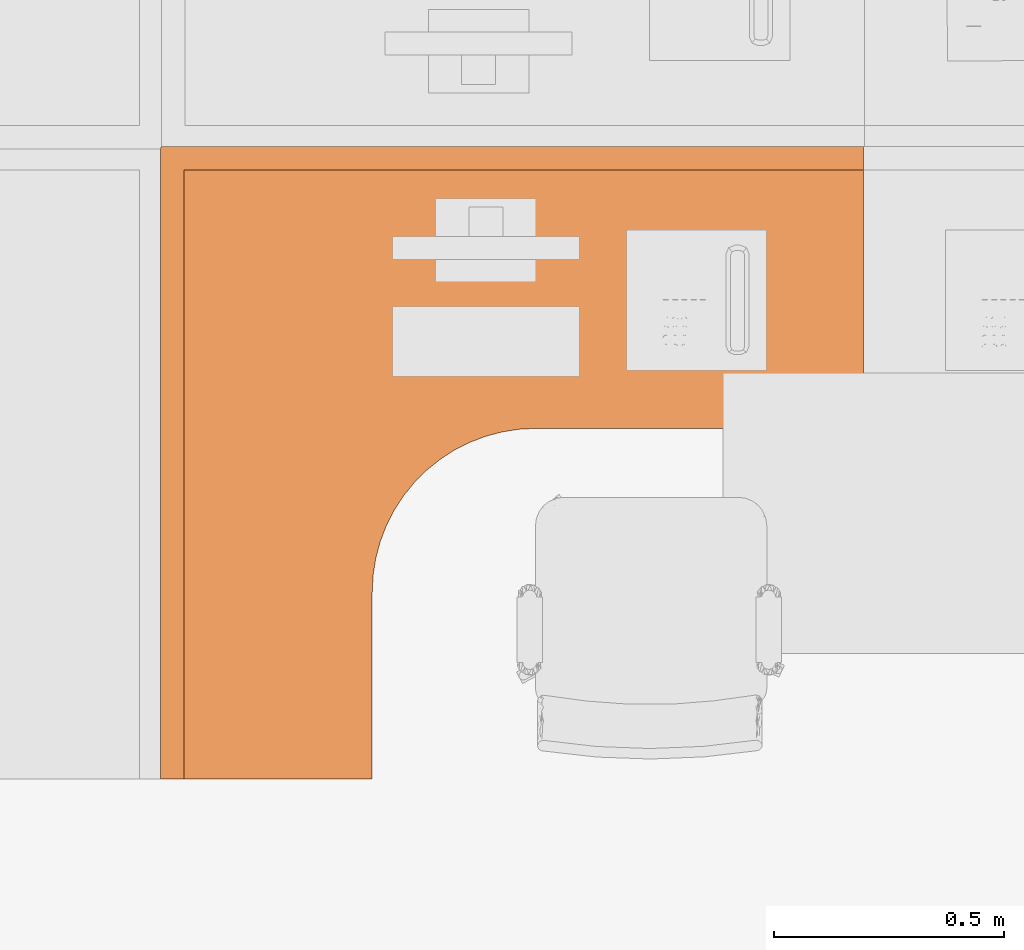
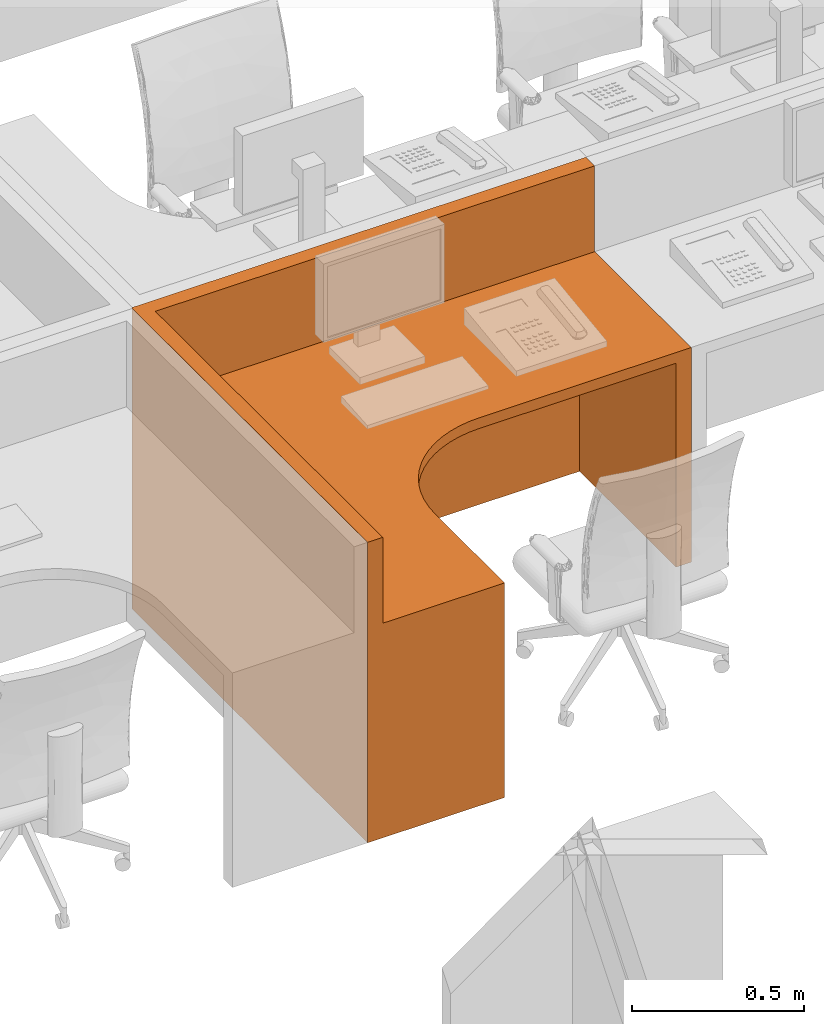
# One storey, part 32 of 142: 1 proxy.
"""IFC2X3 building model written with IfcOpenShell, lengths in feet."""

from ifc_helpers import new_model, entity, si_unit, converted_unit, derived_unit, direction, frame, frame_2d, origin, place, context, subcontext, project, spatial, polyline, circle_curve, parameter, trimmed, segment, composite_curve, rectangle, outline, extrude, source, transform, mapped, type_object, type_shapes, element, save


model = new_model("IFC2X3")

# Units and contexts
model_context = context("Model", 3, precision=0.0001, world=origin(), true_north=direction((6.12303176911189e-17, 1.0)))
body_context = subcontext(model_context, "Body", "Model", "MODEL_VIEW")
ifc_project = project(units=[converted_unit("LENGTHUNIT", "FOOT", entity("IfcRatioMeasure", 0.3048), si_unit("LENGTHUNIT", "METRE"), dimensions=[1, 0, 0, 0, 0, 0, 0]), converted_unit("AREAUNIT", "SQUARE FOOT", entity("IfcRatioMeasure", 0.09290304), si_unit("AREAUNIT", "SQUARE_METRE"), dimensions=[2, 0, 0, 0, 0, 0, 0]), converted_unit("VOLUMEUNIT", "CUBIC FOOT", entity("IfcRatioMeasure", 0.028316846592), si_unit("VOLUMEUNIT", "CUBIC_METRE"), dimensions=[3, 0, 0, 0, 0, 0, 0]), converted_unit("PLANEANGLEUNIT", "DEGREE", entity("IfcRatioMeasure", 0.0174532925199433), si_unit("PLANEANGLEUNIT", "RADIAN"), dimensions=[0, 0, 0, 0, 0, 0, 0]), si_unit("MASSUNIT", "GRAM", prefix="KILO"), derived_unit("MASSDENSITYUNIT", [(si_unit("MASSUNIT", "GRAM", prefix="KILO"), 1), (si_unit("LENGTHUNIT", "METRE"), -3)]), si_unit("TIMEUNIT", "SECOND"), si_unit("FREQUENCYUNIT", "HERTZ"), si_unit("THERMODYNAMICTEMPERATUREUNIT", "DEGREE_CELSIUS"), derived_unit("THERMALTRANSMITTANCEUNIT", [(si_unit("MASSUNIT", "GRAM", prefix="KILO"), 1), (si_unit("THERMODYNAMICTEMPERATUREUNIT", "KELVIN"), -1), (si_unit("TIMEUNIT", "SECOND"), -3)]), derived_unit("VOLUMETRICFLOWRATEUNIT", [(si_unit("LENGTHUNIT", "METRE"), 3), (si_unit("TIMEUNIT", "SECOND"), -1)]), si_unit("ELECTRICCURRENTUNIT", "AMPERE"), si_unit("ELECTRICVOLTAGEUNIT", "VOLT"), si_unit("POWERUNIT", "WATT"), si_unit("FORCEUNIT", "NEWTON"), si_unit("ILLUMINANCEUNIT", "LUX"), si_unit("LUMINOUSFLUXUNIT", "LUMEN"), si_unit("LUMINOUSINTENSITYUNIT", "CANDELA"), derived_unit("USERDEFINED", [(si_unit("MASSUNIT", "GRAM", prefix="KILO"), -1), (si_unit("LENGTHUNIT", "METRE"), -2), (si_unit("TIMEUNIT", "SECOND"), 3), (si_unit("LUMINOUSFLUXUNIT", "LUMEN"), 1)]), derived_unit("LINEARVELOCITYUNIT", [(si_unit("LENGTHUNIT", "METRE"), 1), (si_unit("TIMEUNIT", "SECOND"), -1)]), si_unit("PRESSUREUNIT", "PASCAL"), derived_unit("USERDEFINED", [(si_unit("LENGTHUNIT", "METRE"), -2), (si_unit("MASSUNIT", "GRAM", prefix="KILO"), 1), (si_unit("TIMEUNIT", "SECOND"), -2)])], contexts=[model_context])

# Site, building, storey, space
site_placement = place(None, origin())
site = spatial("IfcSite", under=ifc_project, at=site_placement, Name="Default", CompositionType="ELEMENT")
building_placement = place(site_placement, origin())
building = spatial("IfcBuilding", under=site, at=building_placement, Name="OUTPATIENT / PACT CLINIC (Ch. 265)", CompositionType="ELEMENT")
storey_placement = place(building_placement, origin())
storey = spatial("IfcBuildingStorey", under=building, at=storey_placement, Name="LEVEL 1", CompositionType="ELEMENT", Elevation=0.0)
space_placement = place(storey_placement, origin())
space = spatial("IfcSpace", under=storey, at=space_placement, Name="WRTM1", CompositionType="ELEMENT", InteriorOrExteriorSpace="INTERNAL")

# Proxy
building_element_proxy_type = type_object("IfcBuildingElementProxyType", Name="U0075 - Workstation, L-Shaped, Freestanding, 60x54", PredefinedType="NOTDEFINED")
shared_shape = source(origin(), body_context, "Body", "SweptSolid", [
    extrude(rectangle(XDim=2.0, YDim=0.166666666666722, at=frame_2d((-1.11022302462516e-16, -1.3836154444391e-14), x_axis=(1.0, 0.0))), frame((0.0833333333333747, 1.0, 0.0), z_axis=(0.0, 0.0, 1.0), x_axis=(0.0, 1.0, 0.0)), (0.0, 0.0, 1.0), 2.375),
    extrude(rectangle(XDim=1.5, YDim=0.166666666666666, at=frame_2d((-4.44089209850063e-16, 0.0), x_axis=(1.0, 0.0))), frame((4.25000000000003, 4.41666666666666, 0.0), z_axis=(0.0, 0.0, 1.0), x_axis=(-1.0, 0.0, 0.0)), (0.0, 0.0, 1.0), 2.37499999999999),
    extrude(outline(composite_curve([segment(polyline([(-2.3095238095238, -2.23809523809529), (2.19047619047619, -2.23809523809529)]), True, "CONTINUOUS"), segment(polyline([(2.19047619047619, -2.23809523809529), (2.19047619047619, -0.738095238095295)]), True, "CONTINUOUS"), segment(polyline([(2.19047619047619, -0.738095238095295), (0.857142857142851, -0.738095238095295)]), True, "CONTINUOUS"), segment(trimmed(circle_curve(frame_2d((0.857142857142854, 0.428571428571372), x_axis=(0.0, 1.0)), 1.16666666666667), [parameter(90.0)], [parameter(180.0)], True, "PARAMETER"), False, "CONTINUOUS"), segment(polyline([(-0.309523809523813, 0.428571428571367), (-0.309523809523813, 2.7619047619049)]), True, "CONTINUOUS"), segment(polyline([(-0.309523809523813, 2.7619047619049), (-2.3095238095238, 2.7619047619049)]), True, "CONTINUOUS"), segment(polyline([(-2.3095238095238, 2.7619047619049), (-2.3095238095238, -2.23809523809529)]), True, "CONTINUOUS")], self_intersect=False)), frame((2.76190476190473, 2.30952380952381, 2.37499999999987), z_axis=(0.0, 0.0, 1.0), x_axis=(0.0, 1.0, 0.0)), (0.0, 0.0, 1.0), 0.125),
    extrude(outline(polyline([(-2.16666666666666, -2.16666666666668), (2.33333333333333, -2.16666666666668), (2.33333333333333, -0.666666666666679), (-0.16666666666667, -0.666666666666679), (-0.16666666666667, 2.83333333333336), (-2.16666666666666, 2.83333333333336), (-2.16666666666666, -2.16666666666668)])), frame((2.83333333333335, 2.16666666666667, 2.37499999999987), z_axis=(0.0, 0.0, 1.0), x_axis=(0.0, 1.0, 0.0)), (0.0, 0.0, 1.0), 0.125),
    extrude(rectangle(XDim=0.166666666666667, YDim=5.00000000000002, at=frame_2d((2.77555756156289e-17, -2.22044604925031e-16), x_axis=(1.0, 0.0))), frame((2.49999999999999, 0.0750000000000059, 0.0), z_axis=(0.0, 0.0, 1.0), x_axis=(0.0, 1.0, 0.0)), (0.0, 0.0, 1.0), 3.5),
    extrude(rectangle(XDim=0.166666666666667, YDim=4.50000000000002, at=frame_2d((4.44089209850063e-16, 2.22044604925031e-16), x_axis=(1.0, 0.0))), frame((4.92500000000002, 2.25000000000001, 0.0), z_axis=(0.0, 0.0, 1.0), x_axis=(-1.0, 0.0, 0.0)), (0.0, 0.0, 1.0), 3.5),
])
type_shapes(building_element_proxy_type, [shared_shape])
proxy_placement = place(space_placement, frame((424.359283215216, -922.628851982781, 0.0), z_axis=(0.0, 0.0, 1.0), x_axis=(-1.0, 0.0, 0.0)))
element("IfcBuildingElementProxy", 1, at=proxy_placement, inside=space, type_object=building_element_proxy_type, Name="U0075 - Workstation, L-Shaped, Freestanding, 60x54:U0075 - Workstation, L-Shaped, Freestanding, 60x54", ObjectType="U0075 - Workstation, L-Shaped, Freestanding, 60x54", context=body_context, shape_type="MappedRepresentation", body=[
    mapped(shared_shape, transform((0.0, 0.0, 0.0), scale=1.0)),
])

save(model, "model.ifc")
